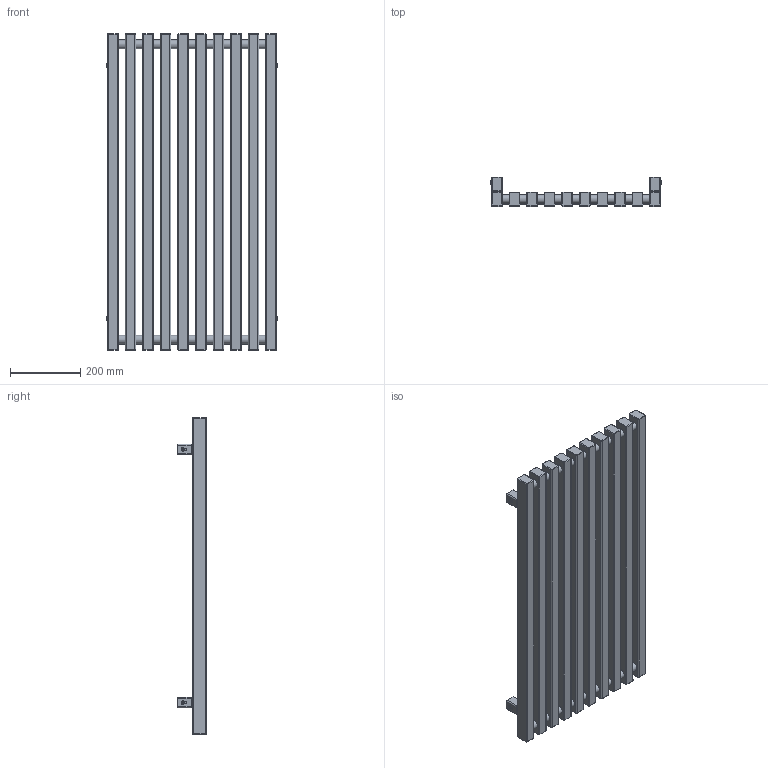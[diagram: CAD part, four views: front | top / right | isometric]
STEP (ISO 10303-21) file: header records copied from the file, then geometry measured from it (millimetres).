
FILE_DESCRIPTION((''),'2;1');
FILE_NAME('Z:\R\G\P\RGP029 - Grzejnik Triga ( ZET)\Work\Inventor\Triga v1.1\Marketing\AutoCad 3D\G-TR-XX-MK-XX-90-58-ZX.stp','2012-07-26T13:40:51',('DawPi'),(''),'Autodesk Inventor 2012','Autodesk Inventor 2012','');
FILE_SCHEMA(('AUTOMOTIVE_DESIGN { 1 0 10303 214 1 1 1 1 }'));
Length unit declared in the file: millimetre
Products named in the file (3): G-TR-XX-MK-XX-90-58-ZX; MMT42
Assembly tree (5 placements, depth 2):
  G-TR-XX-MK-XX-90-58-ZX
    G-TR-XX-MK-XX-90-58-ZX
    MMT42  x4
Bounding box: 486 x 82 x 900 mm (x, y, z)
Volume: 11042054.4 mm3; surface area: 1278800.8 mm2
Topology: 5 solids, 5 shells, 485 faces, 1093 edges, 659 vertices
Faces by surface type: cylinder 197, plane 171, bspline 80, cone 24, torus 13
Full cylindrical faces by diameter (mm): 4.134 x4, 4.509 x4, 10 x4, 11.445 x1, 12 x4, 18.631 x2, 25 x18
Entity records: 15615 total; most frequent: CARTESIAN_POINT 7970, DIRECTION 1698, ORIENTED_EDGE 1452, EDGE_CURVE 726, AXIS2_PLACEMENT_3D 698, VERTEX_POINT 450, EDGE_LOOP 440, CIRCLE 420
